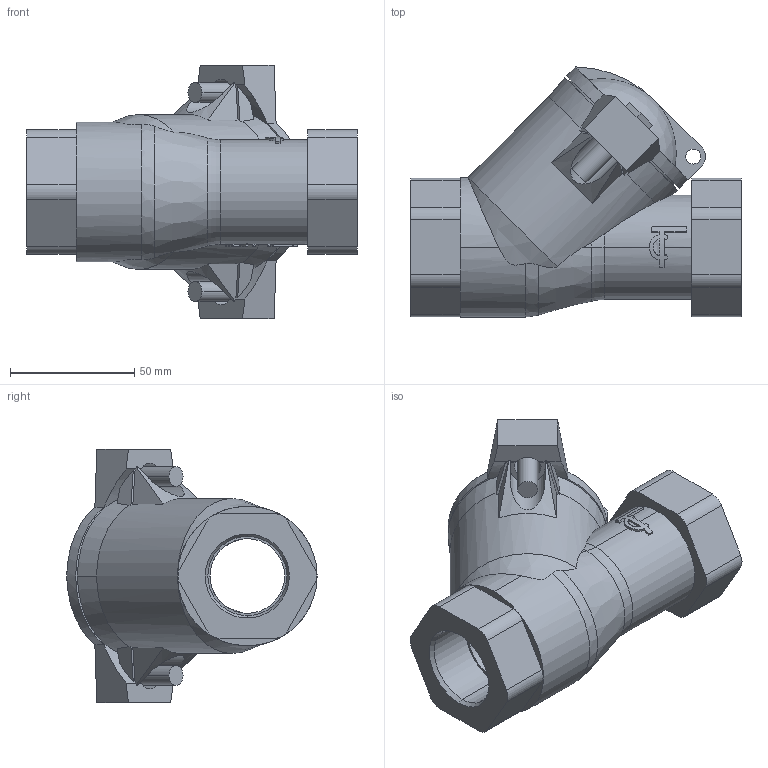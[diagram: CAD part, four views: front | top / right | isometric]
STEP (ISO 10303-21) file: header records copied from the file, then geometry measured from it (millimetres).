
FILE_DESCRIPTION (( 'STEP AP203' ), '1' );
FILE_NAME ('DN 32.STEP', '2010-05-13T07:42:50', ( 'farex' ), ( '' ), 'SwSTEP 2.0', 'SolidWorks 2009', '' );
FILE_SCHEMA (( 'CONFIG_CONTROL_DESIGN' ));
Length unit declared in the file: millimetre
Products named in the file (1): DN 32
Bounding box: 133 x 100.54 x 102 mm (x, y, z)
Volume: 231179.1 mm3; surface area: 64640.2 mm2
Topology: 1 solids, 1 shells, 288 faces, 803 edges, 522 vertices
Faces by surface type: plane 128, cylinder 73, bspline 57, cone 18, torus 10, sphere 2
Entity records: 11490 total; most frequent: CARTESIAN_POINT 4516, ORIENTED_EDGE 1602, DIRECTION 1227, EDGE_CURVE 801, VERTEX_POINT 522, AXIS2_PLACEMENT_3D 455, VECTOR 317, LINE 317
